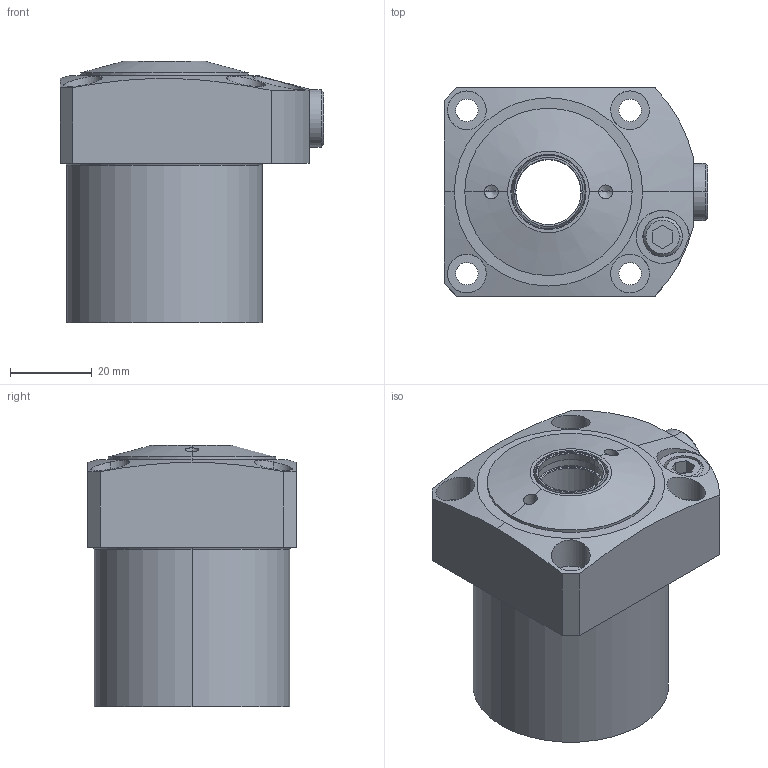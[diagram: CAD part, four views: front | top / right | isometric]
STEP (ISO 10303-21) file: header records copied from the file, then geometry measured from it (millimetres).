
FILE_DESCRIPTION(/* description */ (''),/* implementation_level */ '2;1');
FILE_NAME(/* name */ 'KFSS48-C.stp',/* time_stamp */ '2022-11-17T07:52:06+08:00',/* author */ (''),/* organization */ (''),/* preprocessor_version */ 'ST-DEVELOPER v16.7',/* originating_system */ 'SIEMENS PLM Software NX 12.0',/* authorisation */ '');
FILE_SCHEMA (('AP203_CONFIGURATION_CONTROLLED_3D_DESIGN_OF_MECHANICAL_PARTS_AND_ASSEMBLIES_MIM_LF { 1 0 10303 403 2 1 2}'));
Length unit declared in the file: millimetre
Products named in the file (4): KFSS48-C-03; KFSS48-C-01; KFSS48-C-02; LC0482-Cx-D_step
Assembly tree (3 placements, depth 2):
  LC0482-Cx-D_step
    KFSS48-C-02
    KFSS48-C-01
    KFSS48-C-03
Bounding box: 64.5 x 51 x 64 mm (x, y, z)
Volume: 118417.8 mm3; surface area: 22619.8 mm2
Topology: 3 solids, 3 shells, 157 faces, 340 edges, 204 vertices
Faces by surface type: cylinder 52, cone 44, plane 43, torus 18
Entity records: 4894 total; most frequent: CARTESIAN_POINT 937, DIRECTION 805, ORIENTED_EDGE 672, EDGE_CURVE 336, AXIS2_PLACEMENT_3D 330, VERTEX_POINT 204, EDGE_LOOP 186, CIRCLE 169
